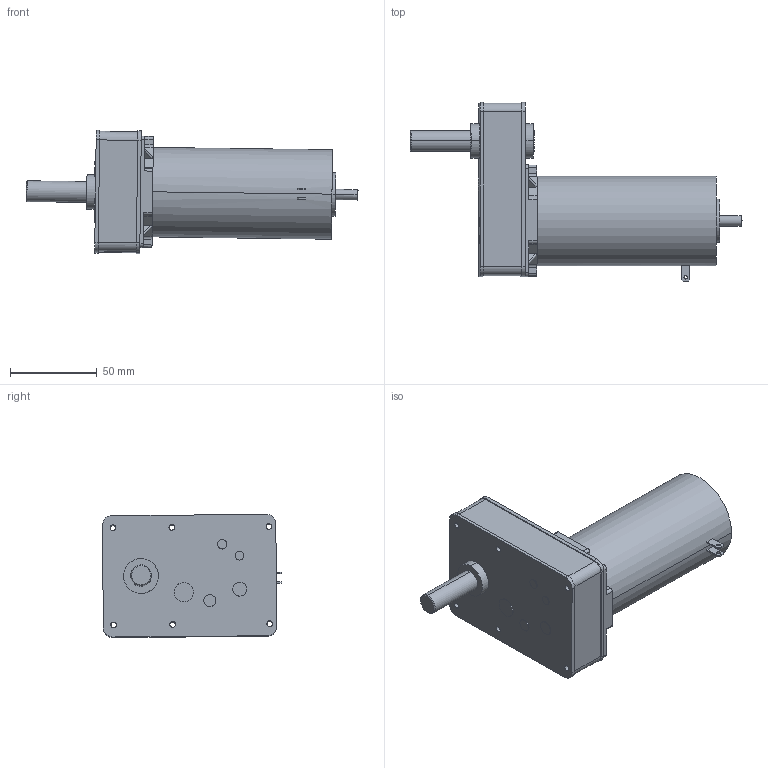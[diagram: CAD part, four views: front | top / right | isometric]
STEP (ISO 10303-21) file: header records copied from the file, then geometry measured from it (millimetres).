
FILE_DESCRIPTION (( 'STEP AP214' ), '1' );
FILE_NAME ('1_13_044_4XX_SPG100S.STEP', '2013-11-22T08:02:49', ( '' ), ( '' ), 'SwSTEP 2.0', 'SolidWorks 2013', '' );
FILE_SCHEMA (( 'AUTOMOTIVE_DESIGN' ));
Length unit declared in the file: millimetre
Products named in the file (4): 1_13_044_4XX; SGP100S_Part; Adapt SGP100S; 1_13_044_4XX_SPG100S
Assembly tree (3 placements, depth 2):
  1_13_044_4XX_SPG100S
    Adapt SGP100S
    SGP100S_Part
    1_13_044_4XX
Bounding box: 191.49 x 103.28 x 71.06 mm (x, y, z)
Volume: 405813.5 mm3; surface area: 61120.7 mm2
Topology: 3 solids, 3 shells, 378 faces, 972 edges, 620 vertices
Faces by surface type: cylinder 194, plane 146, cone 38
Entity records: 14709 total; most frequent: DIRECTION 2092, CARTESIAN_POINT 1992, ORIENTED_EDGE 1880, EDGE_CURVE 940, AXIS2_PLACEMENT_3D 776, VERTEX_POINT 620, LINE 540, VECTOR 540
